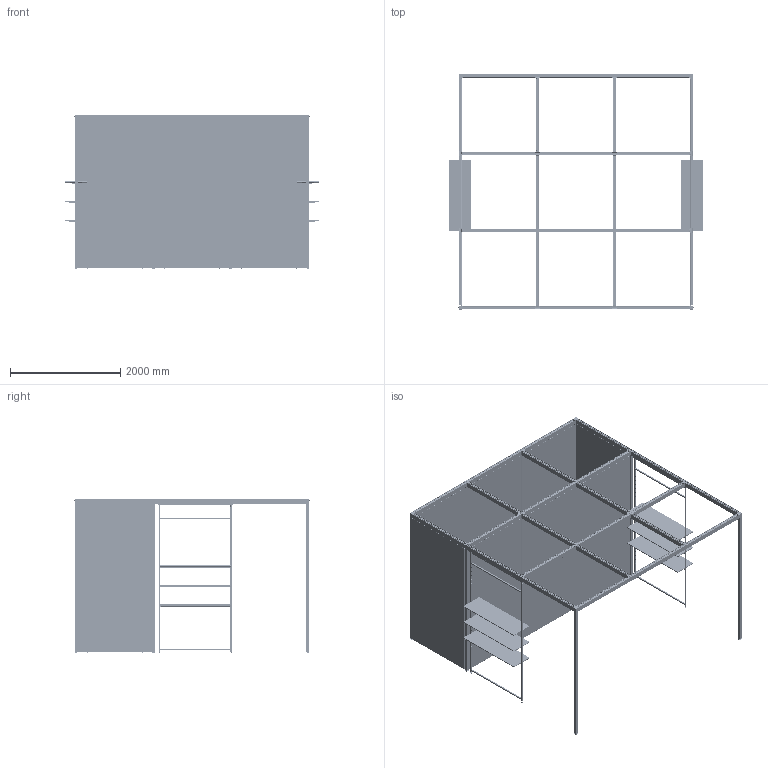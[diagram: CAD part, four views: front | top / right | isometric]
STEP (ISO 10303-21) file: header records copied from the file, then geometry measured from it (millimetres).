
FILE_DESCRIPTION (( 'STEP AP214' ), '1' );
FILE_NAME ('Aufbau1.STEP', '2025-10-08T09:03:56', ( '' ), ( '' ), 'SwSTEP 2.0', 'SolidWorks 2025', '' );
FILE_SCHEMA (( 'AUTOMOTIVE_DESIGN' ));
Length unit declared in the file: millimetre
Products named in the file (1): Aufbau1
Bounding box: 4600 x 4262.4 x 2802 mm (x, y, z)
Volume: 919365455.3 mm3; surface area: 155877561.8 mm2
Topology: 178 solids, 178 shells, 15278 faces, 42586 edges, 28080 vertices
Faces by surface type: plane 10518, cylinder 3768, bspline 620, cone 212, torus 128, sphere 32
Entity records: 542010 total; most frequent: CARTESIAN_POINT 142541, ORIENTED_EDGE 85172, DIRECTION 76700, EDGE_CURVE 42586, VECTOR 33142, LINE 33142, VERTEX_POINT 28080, AXIS2_PLACEMENT_3D 21779
